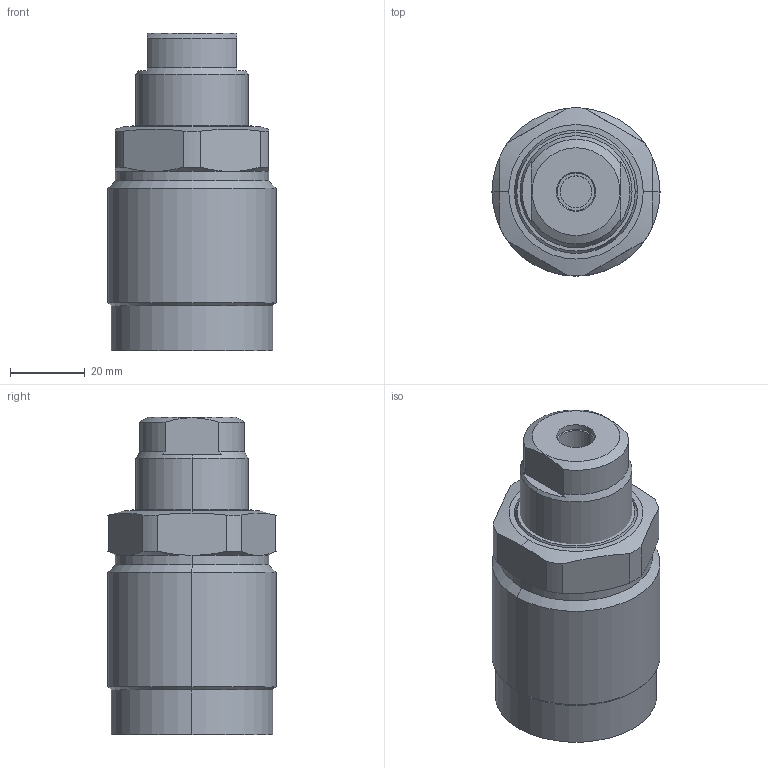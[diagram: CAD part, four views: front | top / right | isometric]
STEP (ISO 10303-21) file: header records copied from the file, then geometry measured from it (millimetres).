
FILE_DESCRIPTION (( 'STEP AP203' ), '1' );
FILE_NAME ('650451-AM.step', '2016-11-02T03:14:39', ( 'wxp' ), ( '' ), 'SwSTEP 2.0', 'SolidWorks 2011', '' );
FILE_SCHEMA (( 'CONFIG_CONTROL_DESIGN' ));
Length unit declared in the file: millimetre
Products named in the file (3): 650451-AM; 葩璃 650451-AM.sldasm-Part-2^650451-AM; 葩璃 650451-AM.sldasm-Part-1^650451-AM
Assembly tree (2 placements, depth 2):
  650451-AM
    葩璃 650451-AM.sldasm-Part-1^650451-AM
    葩璃 650451-AM.sldasm-Part-2^650451-AM
Bounding box: 45 x 45 x 85 mm (x, y, z)
Volume: 106641.8 mm3; surface area: 16857.7 mm2
Topology: 2 solids, 2 shells, 80 faces, 180 edges, 111 vertices
Faces by surface type: cylinder 34, plane 22, cone 18, torus 6
Entity records: 2643 total; most frequent: CARTESIAN_POINT 530, DIRECTION 416, ORIENTED_EDGE 356, EDGE_CURVE 178, AXIS2_PLACEMENT_3D 177, VERTEX_POINT 111, CIRCLE 92, EDGE_LOOP 89
